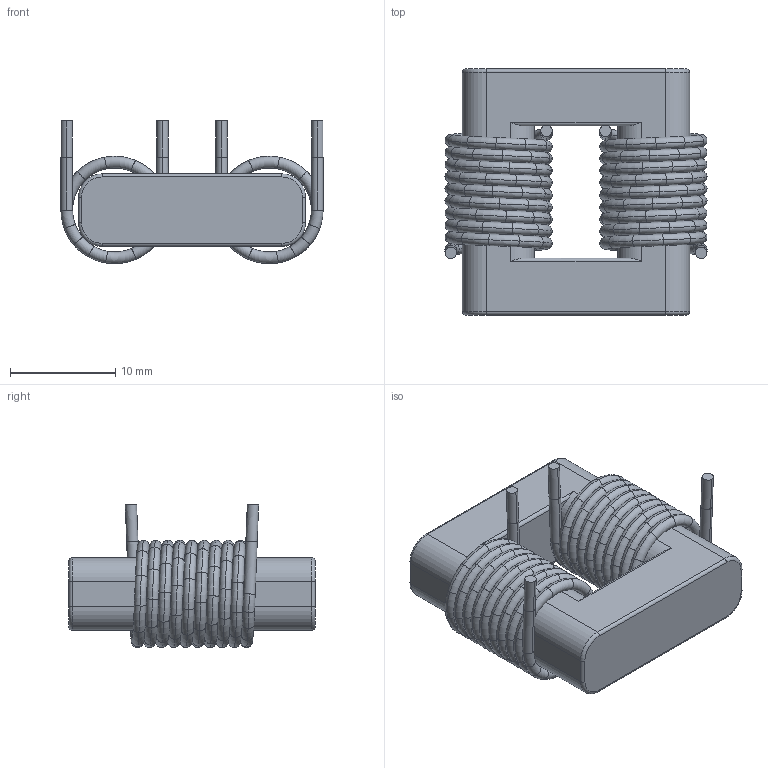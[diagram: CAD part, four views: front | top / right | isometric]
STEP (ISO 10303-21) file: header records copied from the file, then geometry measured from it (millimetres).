
FILE_DESCRIPTION (( 'STEP AP214' ), '1' );
FILE_NAME ('成品线圈3D图-THT-0766-281.STEP', '2025-08-25T08:55:52', ( '微软用户' ), ( '微软中国' ), 'SwSTEP 2.0', 'SolidWorks 2018', '' );
FILE_SCHEMA (( 'AUTOMOTIVE_DESIGN' ));
Length unit declared in the file: millimetre
Products named in the file (1): 成品线圈3D图-THT-0766-281
Bounding box: 24.92 x 23.4 x 13.61 mm (x, y, z)
Volume: 3189.8 mm3; surface area: 3556.2 mm2
Topology: 3 solids, 3 shells, 478 faces, 1388 edges, 920 vertices
Faces by surface type: torus 424, cylinder 36, plane 18
Entity records: 22130 total; most frequent: DIRECTION 3658, CARTESIAN_POINT 2895, ORIENTED_EDGE 2776, AXIS2_PLACEMENT_3D 1799, EDGE_CURVE 1388, CIRCLE 1320, VERTEX_POINT 920, EDGE_LOOP 484
